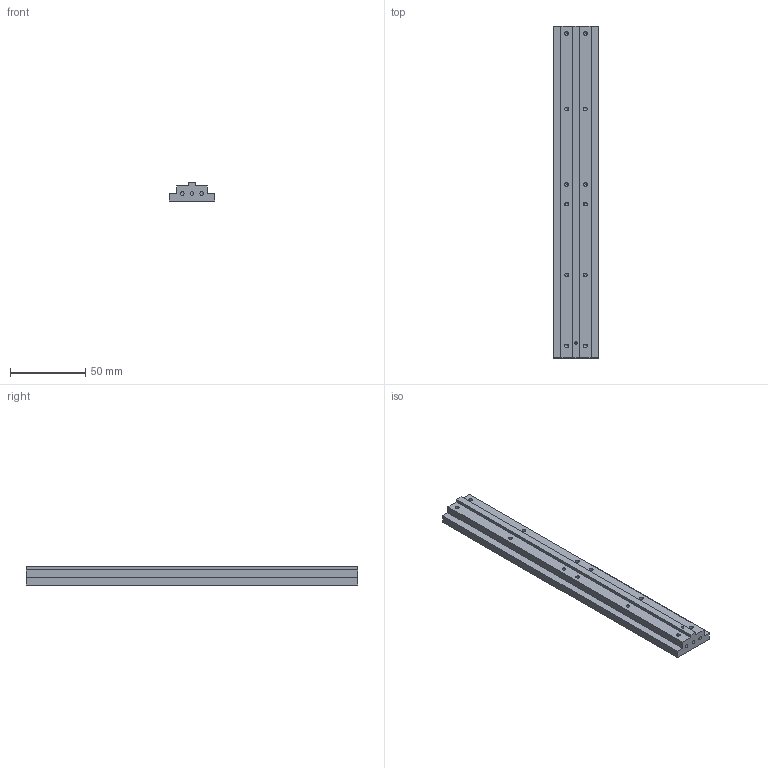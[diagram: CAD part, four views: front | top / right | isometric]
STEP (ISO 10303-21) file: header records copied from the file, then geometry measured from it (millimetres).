
FILE_DESCRIPTION (( 'STEP AP214' ), '1' );
FILE_NAME ('MBCO-00-03-001 棠釱奻蹋釱.STEP', '2026-08-19T10:39:38', ( '' ), ( '' ), 'SwSTEP 2.0', 'SolidWorks 2022', '' );
FILE_SCHEMA (( 'AUTOMOTIVE_DESIGN' ));
Length unit declared in the file: millimetre
Products named in the file (1): MBCO-00-03-001 磁座上料座
Bounding box: 30 x 220 x 12 mm (x, y, z)
Volume: 56612.9 mm3; surface area: 19931.4 mm2
Topology: 1 solids, 1 shells, 75 faces, 194 edges, 108 vertices
Faces by surface type: cylinder 33, cone 28, plane 14
Entity records: 2584 total; most frequent: CARTESIAN_POINT 488, DIRECTION 370, ORIENTED_EDGE 340, EDGE_CURVE 170, AXIS2_PLACEMENT_3D 138, VERTEX_POINT 108, VECTOR 94, LINE 94
